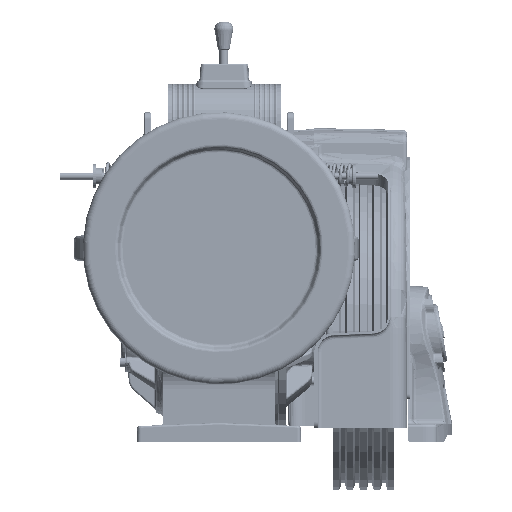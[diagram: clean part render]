
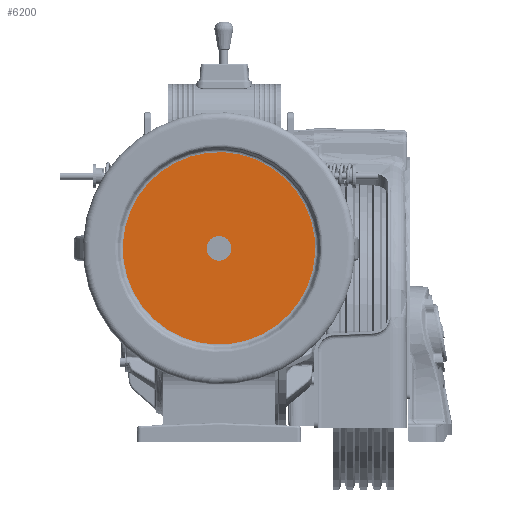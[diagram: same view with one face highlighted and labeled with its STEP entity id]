
A CAD part, front view. The second image highlights one B-rep face of the part: STEP entity #6200.
In plain terms, the highlighted planar face has unit normal (0, -1, 0).
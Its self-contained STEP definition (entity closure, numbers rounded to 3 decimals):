
#4563 = ORIENTED_EDGE ( 'NONE', *, *, #177483, .T. ) ;
#6200 = ADVANCED_FACE ( 'NONE', ( #134634, #286655 ), #205815, .T. ) ;
#6517 = DIRECTION ( 'NONE',  ( 0., -1., 0. ) ) ;
#7416 = ORIENTED_EDGE ( 'NONE', *, *, #214621, .F. ) ;
#15317 = CIRCLE ( 'NONE', #242289, 18.111 ) ;
#15525 = VERTEX_POINT ( 'NONE', #204600 ) ;
#22559 = AXIS2_PLACEMENT_3D ( 'NONE', #203886, #129462, #283108 ) ;
#28952 = DIRECTION ( 'NONE',  ( 0., -1., 0. ) ) ;
#34480 = DIRECTION ( 'NONE',  ( 0., -1., 0. ) ) ;
#36143 = CARTESIAN_POINT ( 'NONE',  ( -31.365, -610.945, 67.579 ) ) ;
#44932 = DIRECTION ( 'NONE',  ( 0., -1., 0. ) ) ;
#46223 = VERTEX_POINT ( 'NONE', #245576 ) ;
#54671 = ORIENTED_EDGE ( 'NONE', *, *, #106248, .T. ) ;
#61283 = EDGE_LOOP ( 'NONE', ( #54671, #4563 ) ) ;
#62589 = AXIS2_PLACEMENT_3D ( 'NONE', #78583, #28952, #129746 ) ;
#78583 = CARTESIAN_POINT ( 'NONE',  ( 109.789, -610.945, 60.338 ) ) ;
#106248 = EDGE_CURVE ( 'NONE', #46223, #15525, #268362, .T. ) ;
#128893 = EDGE_LOOP ( 'NONE', ( #7416, #181067 ) ) ;
#129462 = DIRECTION ( 'NONE',  ( 0., -1., 0. ) ) ;
#129746 = DIRECTION ( 'NONE',  ( 0., 0., -1. ) ) ;
#133714 = DIRECTION ( 'NONE',  ( -0.051, 0., -0.999 ) ) ;
#134634 = FACE_BOUND ( 'NONE', #128893, .T. ) ;
#154218 = AXIS2_PLACEMENT_3D ( 'NONE', #198584, #44932, #223357 ) ;
#173358 = AXIS2_PLACEMENT_3D ( 'NONE', #36143, #34480, #184930 ) ;
#175458 = CIRCLE ( 'NONE', #154218, 18.111 ) ;
#176630 = EDGE_CURVE ( 'NONE', #190726, #201429, #175458, .T. ) ;
#177483 = EDGE_CURVE ( 'NONE', #15525, #46223, #244324, .T. ) ;
#181067 = ORIENTED_EDGE ( 'NONE', *, *, #176630, .F. ) ;
#184930 = DIRECTION ( 'NONE',  ( -0.051, 0., -0.999 ) ) ;
#190726 = VERTEX_POINT ( 'NONE', #202576 ) ;
#198584 = CARTESIAN_POINT ( 'NONE',  ( -31.365, -610.945, 67.579 ) ) ;
#201429 = VERTEX_POINT ( 'NONE', #253145 ) ;
#202576 = CARTESIAN_POINT ( 'NONE',  ( -32.293, -610.945, 49.492 ) ) ;
#203886 = CARTESIAN_POINT ( 'NONE',  ( -31.365, -610.945, 67.579 ) ) ;
#204600 = CARTESIAN_POINT ( 'NONE',  ( -24.124, -610.945, 208.734 ) ) ;
#205815 = PLANE ( 'NONE',  #62589 ) ;
#214621 = EDGE_CURVE ( 'NONE', #201429, #190726, #15317, .T. ) ;
#223357 = DIRECTION ( 'NONE',  ( -0.051, 0., -0.999 ) ) ;
#231292 = CARTESIAN_POINT ( 'NONE',  ( -31.365, -610.945, 67.579 ) ) ;
#242289 = AXIS2_PLACEMENT_3D ( 'NONE', #231292, #6517, #133714 ) ;
#244324 = CIRCLE ( 'NONE', #22559, 141.34 ) ;
#245576 = CARTESIAN_POINT ( 'NONE',  ( -38.606, -610.945, -73.575 ) ) ;
#253145 = CARTESIAN_POINT ( 'NONE',  ( -30.437, -610.945, 85.666 ) ) ;
#268362 = CIRCLE ( 'NONE', #173358, 141.34 ) ;
#283108 = DIRECTION ( 'NONE',  ( -0.051, 0., -0.999 ) ) ;
#286655 = FACE_OUTER_BOUND ( 'NONE', #61283, .T. ) ;
